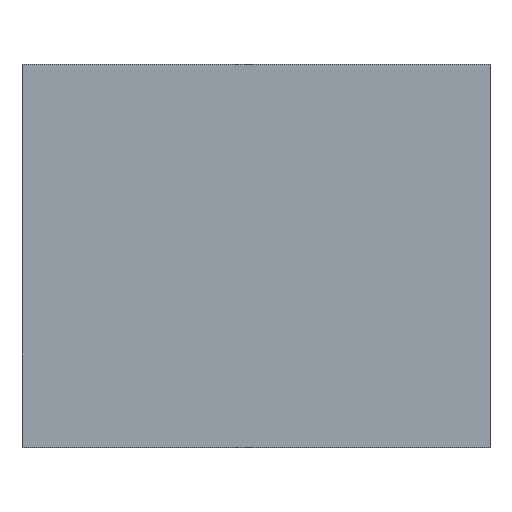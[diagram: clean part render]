
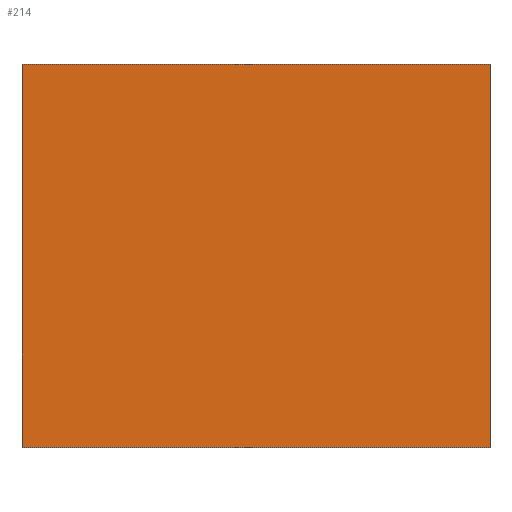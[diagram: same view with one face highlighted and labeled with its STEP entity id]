
A CAD part, top view. The second image highlights one B-rep face of the part: STEP entity #214.
In plain terms, the highlighted planar face has unit normal (0, 0, 1).
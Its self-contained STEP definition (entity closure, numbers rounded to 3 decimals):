
#4 = VERTEX_POINT ( 'NONE', #503 ) ;
#15 = PLANE ( 'NONE',  #750 ) ;
#72 = DIRECTION ( 'NONE',  ( 1., 0., 0. ) ) ;
#90 = CARTESIAN_POINT ( 'NONE',  ( 0., 0., 19. ) ) ;
#99 = DIRECTION ( 'NONE',  ( 0., -1., 0. ) ) ;
#107 = FACE_OUTER_BOUND ( 'NONE', #669, .T. ) ;
#139 = CARTESIAN_POINT ( 'NONE',  ( 66., 0., 19. ) ) ;
#145 = ORIENTED_EDGE ( 'NONE', *, *, #764, .T. ) ;
#181 = DIRECTION ( 'NONE',  ( 0., 1., 0. ) ) ;
#208 = EDGE_CURVE ( 'NONE', #371, #977, #810, .T. ) ;
#214 = ADVANCED_FACE ( 'NONE', ( #107 ), #15, .F. ) ;
#224 = ORIENTED_EDGE ( 'NONE', *, *, #572, .T. ) ;
#238 = DIRECTION ( 'NONE',  ( -1., 0., 0. ) ) ;
#243 = VECTOR ( 'NONE', #238, 1000. ) ;
#286 = VECTOR ( 'NONE', #181, 1000. ) ;
#337 = CARTESIAN_POINT ( 'NONE',  ( 0., 54., 19. ) ) ;
#369 = LINE ( 'NONE', #670, #243 ) ;
#371 = VERTEX_POINT ( 'NONE', #139 ) ;
#382 = DIRECTION ( 'NONE',  ( -1., 0., 0. ) ) ;
#503 = CARTESIAN_POINT ( 'NONE',  ( 0., 0., 19. ) ) ;
#519 = LINE ( 'NONE', #594, #815 ) ;
#536 = LINE ( 'NONE', #90, #893 ) ;
#572 = EDGE_CURVE ( 'NONE', #4, #371, #519, .T. ) ;
#594 = CARTESIAN_POINT ( 'NONE',  ( 0., 0., 19. ) ) ;
#595 = ORIENTED_EDGE ( 'NONE', *, *, #208, .T. ) ;
#612 = VERTEX_POINT ( 'NONE', #337 ) ;
#669 = EDGE_LOOP ( 'NONE', ( #1121, #224, #595, #145 ) ) ;
#670 = CARTESIAN_POINT ( 'NONE',  ( 0., 54., 19. ) ) ;
#718 = CARTESIAN_POINT ( 'NONE',  ( 66., 0., 19. ) ) ;
#730 = EDGE_CURVE ( 'NONE', #612, #4, #536, .T. ) ;
#750 = AXIS2_PLACEMENT_3D ( 'NONE', #1002, #1013, #382 ) ;
#764 = EDGE_CURVE ( 'NONE', #977, #612, #369, .T. ) ;
#810 = LINE ( 'NONE', #718, #286 ) ;
#815 = VECTOR ( 'NONE', #72, 1000. ) ;
#893 = VECTOR ( 'NONE', #99, 1000. ) ;
#977 = VERTEX_POINT ( 'NONE', #985 ) ;
#985 = CARTESIAN_POINT ( 'NONE',  ( 66., 54., 19. ) ) ;
#1002 = CARTESIAN_POINT ( 'NONE',  ( 0., 0., 19. ) ) ;
#1013 = DIRECTION ( 'NONE',  ( 0., 0., -1. ) ) ;
#1121 = ORIENTED_EDGE ( 'NONE', *, *, #730, .T. ) ;
